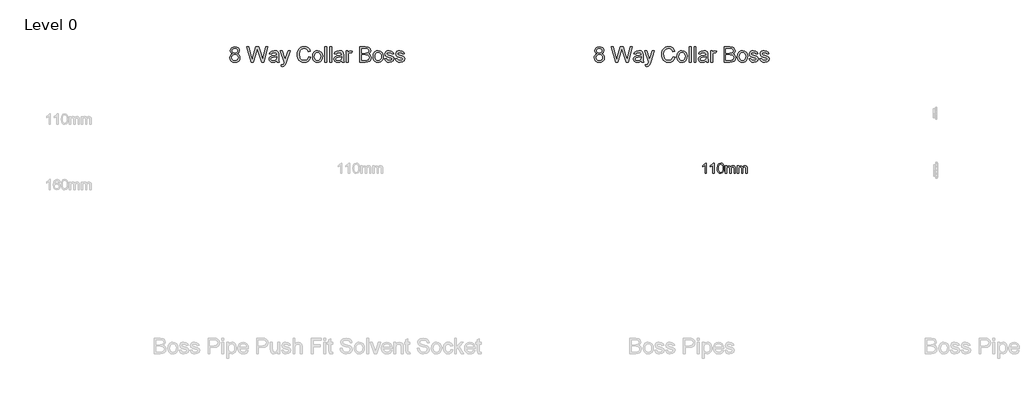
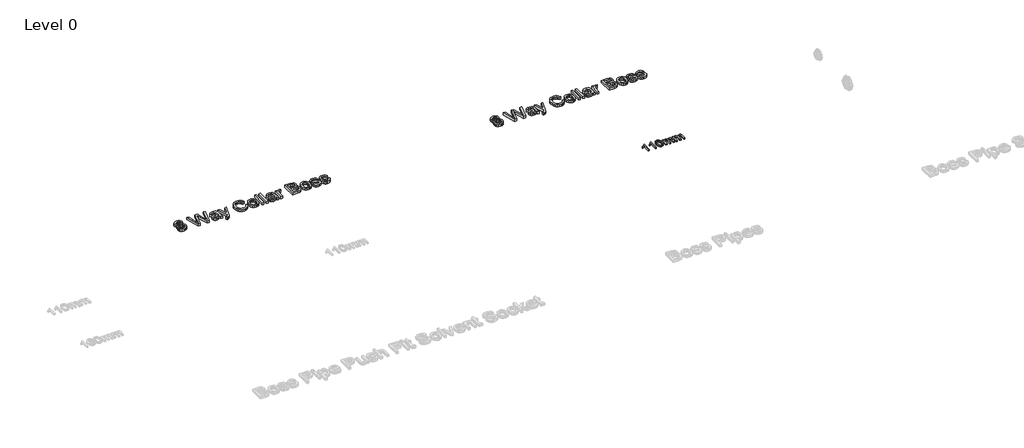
# One storey, part 14 of 28: 3 proxies.
"""IFC4 building model written with IfcOpenShell, lengths in millimetres."""

from ifc_helpers import new_model, si_unit, origin, origin_with_axes, place, context, project, spatial, polyline, outline, extrude, element, save

model = new_model("IFC4")

# Units and contexts
model_context = context("Model", 3, world=origin())
ifc_project = project(units=[si_unit("LENGTHUNIT", "METRE", prefix="MILLI")], contexts=[model_context])

# Site, building, storey
site = spatial("IfcSite", under=ifc_project)
building = spatial("IfcBuilding", under=site)
storey = spatial("IfcBuildingStorey", under=building, Name="Level 0", Elevation=0.0)

# Proxies
placement = place(None, origin())
element("IfcBuildingElementProxy", 1, Name="100mm Arial", ObjectType="100mm Arial", at=placement, inside=storey, context=model_context, shape_type="SweptSolid", body=[
    extrude(outline(polyline([(-17291.7293188, 8237.7167304), (-17304.0370111, 8237.7167304), (-17304.0370111, 8314.4474996), (-17315.6956649, 8306.1422111), (-17328.6523957, 8299.9282688), (-17328.6523957, 8311.5628842), (-17310.6115303, 8323.0773073), (-17299.6620111, 8336.1782688), (-17291.7293188, 8336.1782688), (-17291.7293188, 8237.7167304)])), origin_with_axes(), (0.0, 0.0, 1.0), 15.0),
    extrude(outline(polyline([(-17216.3447034, 8237.7167304), (-17228.6523957, 8237.7167304), (-17228.6523957, 8314.4474996), (-17240.3110495, 8306.1422111), (-17253.2677803, 8299.9282688), (-17253.2677803, 8311.5628842), (-17235.2269149, 8323.0773073), (-17224.2773957, 8336.1782688), (-17216.3447034, 8336.1782688), (-17216.3447034, 8237.7167304)])), origin_with_axes(), (0.0, 0.0, 1.0), 15.0),
    extrude(outline(polyline([(-17187.1139341, 8286.1542304), (-17183.4961457, 8314.4835573), (-17172.7509534, 8330.8176919), (-17154.8062418, 8336.1782688), (-17140.4312418, 8333.0051919), (-17130.5033572, 8323.8585573), (-17124.7341264, 8309.2912496), (-17122.4985495, 8286.1542304), (-17126.0802803, 8257.9450958), (-17136.7894149, 8241.5749035), (-17154.8062418, 8236.1782688), (-17167.5947034, 8238.5220188), (-17177.3062418, 8245.5532688), (-17184.6620111, 8262.2059131), (-17187.1139341, 8286.1542304)]), holes=[polyline([(-17174.8062418, 8286.1782688), (-17173.3639341, 8266.8182929), (-17169.0370111, 8255.613365), (-17162.5947034, 8250.2678121), (-17154.8062418, 8248.4859611), (-17147.0177803, 8250.2738217), (-17140.5754726, 8255.6374035), (-17136.2485495, 8266.848341), (-17134.8062418, 8286.1782688), (-17136.2004726, 8305.1025477), (-17140.3831649, 8316.394615), (-17146.8134534, 8322.0015861), (-17154.9504726, 8323.8705765), (-17162.6547995, 8322.2239419), (-17168.8447034, 8317.2840381), (-17173.3158572, 8305.2888458), (-17174.8062418, 8286.1782688)])]), origin_with_axes(), (0.0, 0.0, 1.0), 15.0),
    extrude(outline(polyline([(-17108.6523957, 8237.7167304), (-17108.6523957, 8310.0244227), (-17096.3447034, 8310.0244227), (-17096.3447034, 8298.1253842), (-17087.8831649, 8307.8729804), (-17075.8398957, 8311.5628842), (-17063.5081649, 8307.800865), (-17056.7293188, 8297.2599996), (-17047.1259534, 8307.9871631), (-17034.9985495, 8311.5628842), (-17025.7467466, 8310.0755044), (-17018.9047995, 8305.613365), (-17014.6770351, 8298.0562736), (-17013.2677803, 8287.2840381), (-17013.2677803, 8237.7167304), (-17025.5754726, 8237.7167304), (-17025.5754726, 8281.9955765), (-17026.7172995, 8292.2720188), (-17030.8519149, 8297.332115), (-17037.8831649, 8299.2551919), (-17049.9865303, 8294.3273073), (-17054.8062418, 8278.5340381), (-17054.8062418, 8237.7167304), (-17067.1139341, 8237.7167304), (-17067.1139341, 8283.3657688), (-17069.9624918, 8295.2888458), (-17079.3014341, 8299.2551919), (-17088.4120111, 8296.6109611), (-17094.4697034, 8288.8705765), (-17096.3447034, 8274.1830765), (-17096.3447034, 8237.7167304), (-17108.6523957, 8237.7167304)])), origin_with_axes(), (0.0, 0.0, 1.0), 15.0),
    extrude(outline(polyline([(-16994.8062418, 8237.7167304), (-16994.8062418, 8310.0244227), (-16982.4985495, 8310.0244227), (-16982.4985495, 8298.1253842), (-16974.0370111, 8307.8729804), (-16961.9937418, 8311.5628842), (-16949.6620111, 8307.800865), (-16942.8831649, 8297.2599996), (-16933.2797995, 8307.9871631), (-16921.1523957, 8311.5628842), (-16911.9005928, 8310.0755044), (-16905.0586457, 8305.613365), (-16900.8308813, 8298.0562736), (-16899.4216264, 8287.2840381), (-16899.4216264, 8237.7167304), (-16911.7293188, 8237.7167304), (-16911.7293188, 8281.9955765), (-16912.8711457, 8292.2720188), (-16917.0057611, 8297.332115), (-16924.0370111, 8299.2551919), (-16936.1403764, 8294.3273073), (-16940.960088, 8278.5340381), (-16940.960088, 8237.7167304), (-16953.2677803, 8237.7167304), (-16953.2677803, 8283.3657688), (-16956.116338, 8295.2888458), (-16965.4552803, 8299.2551919), (-16974.5658572, 8296.6109611), (-16980.6235495, 8288.8705765), (-16982.4985495, 8274.1830765), (-16982.4985495, 8237.7167304), (-16994.8062418, 8237.7167304)])), origin_with_axes(), (0.0, 0.0, 1.0), 15.0),
])
element("IfcBuildingElementProxy", 2, Name="150mm Arial", ObjectType="150mm Arial", at=placement, inside=storey, context=model_context, shape_type="SweptSolid", body=[
    extrude(outline(polyline([(-21841.0135666, 9386.5606758), (-21857.83448, 9398.0270219), (-21863.2972204, 9415.8755796), (-21860.3224608, 9430.307671), (-21851.398182, 9442.2337527), (-21837.5249848, 9450.2385604), (-21819.7034704, 9452.9068296), (-21801.7737829, 9450.1754594), (-21787.7202973, 9441.9813488), (-21778.6337589, 9429.8659642), (-21775.6049127, 9415.3707719), (-21780.9955377, 9397.9729354), (-21797.3477012, 9386.5606758), (-21785.9850209, 9380.705808), (-21777.7142877, 9372.0835123), (-21772.670718, 9361.1084522), (-21770.9895281, 9348.1952911), (-21774.3248647, 9330.5450508), (-21784.3308743, 9315.9597142), (-21799.7815954, 9306.1700508), (-21819.4510666, 9302.9068296), (-21839.1205377, 9306.1835724), (-21854.5712589, 9316.0138008), (-21864.5772685, 9330.7388609), (-21867.912605, 9348.7000988), (-21866.163807, 9362.1135604), (-21860.9174127, 9373.1472142), (-21852.443855, 9381.4224546), (-21841.0135666, 9386.5606758)]), holes=[polyline([(-21849.4510666, 9349.3491373), (-21846.3681339, 9335.4488969), (-21835.460682, 9325.0462527), (-21819.3068358, 9321.3683681), (-21806.74073, 9323.3019618), (-21797.3116435, 9329.1027431), (-21791.4162108, 9337.8872984), (-21789.4510666, 9348.7722142), (-21791.4793118, 9359.8419258), (-21797.5640473, 9368.8202911), (-21807.20948, 9374.7698104), (-21819.9198166, 9376.7529835), (-21832.3101411, 9374.7968536), (-21841.6445762, 9368.9284642), (-21847.499444, 9360.1213729), (-21849.4510666, 9349.3491373)]), polyline([(-21844.835682, 9415.3347142), (-21843.1995642, 9407.27582), (-21838.2912108, 9400.8395219), (-21830.2548526, 9396.6207719), (-21819.2347204, 9395.2145219), (-21808.4714993, 9396.6117575), (-21800.5568358, 9400.8034642), (-21795.6890473, 9407.0234161), (-21794.0664512, 9414.5053873), (-21795.7431339, 9422.2713128), (-21800.773182, 9428.6940892), (-21808.7960185, 9433.0074907), (-21819.4510666, 9434.4452911), (-21830.1737228, 9433.0390411), (-21838.1830377, 9428.8202911), (-21843.1725209, 9422.6363969), (-21844.835682, 9415.3347142)])]), origin_with_axes(), (0.0, 0.0, 1.0), 25.0),
    extrude(outline(polyline([(-21663.7900089, 9305.2145219), (-21704.0664512, 9452.9068296), (-21685.0279897, 9452.9068296), (-21661.662605, 9355.8395219), (-21654.4510666, 9325.8755796), (-21646.7347204, 9352.3779835), (-21617.4558743, 9452.9068296), (-21590.0159704, 9452.9068296), (-21568.741932, 9380.0342335), (-21552.912605, 9325.8755796), (-21545.9174127, 9354.9741373), (-21522.335682, 9452.9068296), (-21503.2972204, 9452.9068296), (-21543.6097204, 9305.2145219), (-21563.3332781, 9305.2145219), (-21598.741932, 9419.1568296), (-21603.6818358, 9435.0582719), (-21609.2347204, 9415.9116373), (-21641.506355, 9305.2145219), (-21663.7900089, 9305.2145219)])), origin_with_axes(), (0.0, 0.0, 1.0), 25.0),
    extrude(outline(polyline([(-21417.912605, 9319.0606758), (-21435.8152493, 9306.5486565), (-21455.5928935, 9302.9068296), (-21471.0210786, 9305.0973344), (-21482.4017877, 9311.6688488), (-21489.4195161, 9321.6478152), (-21491.7587589, 9334.0606758), (-21488.225105, 9348.6640411), (-21478.9402493, 9359.2650027), (-21466.0135666, 9365.322695), (-21450.0400089, 9368.0991373), (-21418.0207781, 9374.4452911), (-21417.912605, 9378.5558681), (-21419.1836387, 9386.7950508), (-21422.9967397, 9392.1856758), (-21431.5243839, 9396.1880796), (-21443.4053935, 9397.5222142), (-21462.0832781, 9393.9705315), (-21470.9895281, 9381.3683681), (-21489.4510666, 9383.6760604), (-21481.4642877, 9401.7049065), (-21465.382557, 9412.2698104), (-21441.0255858, 9415.9837527), (-21418.6517877, 9412.7025027), (-21406.0135666, 9404.46332), (-21400.3525089, 9391.9332719), (-21399.4510666, 9375.7794258), (-21399.4510666, 9352.8106758), (-21398.5135666, 9320.7373585), (-21394.835682, 9305.2145219), (-21413.2972204, 9305.2145219), (-21417.912605, 9319.0606758)]), holes=[polyline([(-21417.912605, 9355.9837527), (-21447.6962589, 9350.322695), (-21463.5796723, 9347.3299065), (-21470.773182, 9342.4621181), (-21473.2972204, 9335.3587527), (-21467.7984223, 9325.3707719), (-21451.662605, 9321.3683681), (-21432.9847204, 9325.7854354), (-21420.9414512, 9336.4765411), (-21418.0207781, 9350.7553873), (-21417.912605, 9355.9837527)])]), origin_with_axes(), (0.0, 0.0, 1.0), 25.0),
    extrude(outline(polyline([(-21374.0664512, 9263.6760604), (-21376.3741435, 9281.4525027), (-21366.9991435, 9279.8299065), (-21358.2371243, 9281.8671661), (-21352.8645281, 9287.5462527), (-21347.8164512, 9301.1400027), (-21346.3741435, 9305.6111565), (-21385.6049127, 9413.6760604), (-21366.1337589, 9413.6760604), (-21345.3284704, 9353.4597142), (-21338.0808743, 9329.3731758), (-21330.8332781, 9350.6472142), (-21309.4510666, 9413.6760604), (-21290.1241435, 9413.6760604), (-21327.8765473, 9302.6183681), (-21337.6842397, 9278.5318296), (-21348.3933743, 9265.5150027), (-21362.7803935, 9261.3683681), (-21374.0664512, 9263.6760604)])), origin_with_axes(), (0.0, 0.0, 1.0), 25.0),
    extrude(outline(polyline([(-21110.9895281, 9357.7145219), (-21092.5279897, 9352.9549065), (-21101.0466195, 9331.4419859), (-21114.4150089, 9315.7253392), (-21131.975105, 9306.111457), (-21153.068855, 9302.9068296), (-21174.4826171, 9305.3317094), (-21191.4883262, 9312.6063488), (-21204.523182, 9324.478344), (-21214.0243839, 9340.6952911), (-21219.8251651, 9359.760796), (-21221.7587589, 9380.1784642), (-21219.5727613, 9401.713921), (-21213.0147685, 9420.3106758), (-21202.4273286, 9435.3782839), (-21188.1529897, 9446.3263008), (-21171.2239031, 9452.9924666), (-21152.6722204, 9455.2145219), (-21132.4303334, 9452.338921), (-21115.695057, 9443.7121181), (-21102.9892276, 9429.8659642), (-21094.835682, 9411.3323104), (-21113.2972204, 9406.9332719), (-21119.6974608, 9420.3963128), (-21128.4414512, 9429.6315892), (-21139.6373647, 9434.9726349), (-21153.3933743, 9436.7529835), (-21169.2497445, 9434.7788248), (-21182.2755858, 9428.8563488), (-21192.1599007, 9419.6075508), (-21198.5916916, 9407.6544258), (-21203.2972204, 9380.2145219), (-21197.726307, 9348.4116373), (-21190.6049127, 9336.5351349), (-21180.382557, 9328.0931277), (-21168.1274488, 9323.049558), (-21154.9077973, 9321.3683681), (-21139.4976411, 9323.6580315), (-21126.6565954, 9330.5270219), (-21116.9615834, 9341.9032238), (-21110.9895281, 9357.7145219)])), origin_with_axes(), (0.0, 0.0, 1.0), 25.0),
    extrude(outline(polyline([(-21074.0664512, 9359.4452911), (-21070.0730618, 9385.5961325), (-21058.0928935, 9403.9765411), (-21043.2912108, 9412.9819498), (-21025.568855, 9415.9837527), (-21006.1743238, 9412.3284041), (-20990.6830377, 9401.3623585), (-20980.5282901, 9383.9510003), (-20977.1433743, 9360.9597142), (-20978.6397685, 9342.3088729), (-20983.1289512, 9328.1111565), (-20990.4802132, 9317.4786445), (-21000.5628454, 9309.5234161), (-21012.5385065, 9304.5609762), (-21025.568855, 9302.9068296), (-21045.1977613, 9306.5486565), (-21060.6710185, 9317.4741373), (-21070.717593, 9335.2505796), (-21074.0664512, 9359.4452911)]), holes=[polyline([(-21055.6049127, 9359.4813488), (-21053.4684945, 9342.7731157), (-21047.0592397, 9330.86957), (-21037.413807, 9323.7436686), (-21025.568855, 9321.3683681), (-21013.7779897, 9323.7571902), (-21004.1505858, 9330.9236565), (-20997.741331, 9342.9849546), (-20995.6049127, 9360.0582719), (-20997.7548526, 9376.2797262), (-21004.2046723, 9388.0210123), (-21013.8455978, 9395.1469137), (-21025.568855, 9397.5222142), (-21037.413807, 9395.1559282), (-21047.0592397, 9388.05707), (-21053.4684945, 9376.1805676), (-21055.6049127, 9359.4813488)])]), origin_with_axes(), (0.0, 0.0, 1.0), 25.0),
    extrude(outline(polyline([(-20956.3741435, 9305.2145219), (-20956.3741435, 9452.9068296), (-20937.912605, 9452.9068296), (-20937.912605, 9305.2145219), (-20956.3741435, 9305.2145219)])), origin_with_axes(), (0.0, 0.0, 1.0), 25.0),
    extrude(outline(polyline([(-20910.2202973, 9305.2145219), (-20910.2202973, 9452.9068296), (-20891.7587589, 9452.9068296), (-20891.7587589, 9305.2145219), (-20910.2202973, 9305.2145219)])), origin_with_axes(), (0.0, 0.0, 1.0), 25.0),
    extrude(outline(polyline([(-20794.835682, 9319.0606758), (-20812.7383262, 9306.5486565), (-20832.5159704, 9302.9068296), (-20847.9441555, 9305.0973344), (-20859.3248647, 9311.6688488), (-20866.342593, 9321.6478152), (-20868.6818358, 9334.0606758), (-20865.148182, 9348.6640411), (-20855.8633262, 9359.2650027), (-20842.9366435, 9365.322695), (-20826.9630858, 9368.0991373), (-20794.943855, 9374.4452911), (-20794.835682, 9378.5558681), (-20796.1067156, 9386.7950508), (-20799.9198166, 9392.1856758), (-20808.4474608, 9396.1880796), (-20820.3284704, 9397.5222142), (-20839.006355, 9393.9705315), (-20847.912605, 9381.3683681), (-20866.3741435, 9383.6760604), (-20858.3873647, 9401.7049065), (-20842.3056339, 9412.2698104), (-20817.9486627, 9415.9837527), (-20795.5748647, 9412.7025027), (-20782.9366435, 9404.46332), (-20777.2755858, 9391.9332719), (-20776.3741435, 9375.7794258), (-20776.3741435, 9352.8106758), (-20775.4366435, 9320.7373585), (-20771.7587589, 9305.2145219), (-20790.2202973, 9305.2145219), (-20794.835682, 9319.0606758)]), holes=[polyline([(-20794.835682, 9355.9837527), (-20824.6193358, 9350.322695), (-20840.5027493, 9347.3299065), (-20847.6962589, 9342.4621181), (-20850.2202973, 9335.3587527), (-20844.7214993, 9325.3707719), (-20828.585682, 9321.3683681), (-20809.9077973, 9325.7854354), (-20797.8645281, 9336.4765411), (-20794.943855, 9350.7553873), (-20794.835682, 9355.9837527)])]), origin_with_axes(), (0.0, 0.0, 1.0), 25.0),
    extrude(outline(polyline([(-20750.9895281, 9305.2145219), (-20750.9895281, 9413.6760604), (-20734.835682, 9413.6760604), (-20734.835682, 9397.6303873), (-20723.3693358, 9412.4140411), (-20711.8308743, 9415.9837527), (-20693.2972204, 9410.2866373), (-20699.4630858, 9393.7361565), (-20712.443855, 9397.5222142), (-20722.882557, 9393.8803873), (-20729.5352012, 9383.7842335), (-20732.5279897, 9362.2217335), (-20732.5279897, 9305.2145219), (-20750.9895281, 9305.2145219)])), origin_with_axes(), (0.0, 0.0, 1.0), 25.0),
    extrude(outline(polyline([(-20621.7587589, 9305.2145219), (-20621.7587589, 9452.9068296), (-20565.4005858, 9452.9068296), (-20537.7984223, 9448.5618777), (-20528.522581, 9443.049558), (-20521.5003454, 9435.2025027), (-20515.6049127, 9416.3082719), (-20520.5628454, 9399.0546661), (-20535.5448166, 9385.9837527), (-20525.0835786, 9380.5210123), (-20517.3537108, 9372.2097142), (-20512.5805738, 9361.5997383), (-20510.9895281, 9349.2409642), (-20515.33448, 9329.3912046), (-20526.0977012, 9315.2565892), (-20542.1614031, 9307.7565892), (-20565.8332781, 9305.2145219), (-20621.7587589, 9305.2145219)]), holes=[polyline([(-20603.2972204, 9323.6760604), (-20565.4366435, 9323.6760604), (-20551.7347204, 9324.3972142), (-20540.1421723, 9328.4176469), (-20532.4618839, 9336.6207719), (-20529.4510666, 9349.0606758), (-20532.9847204, 9363.4116373), (-20544.4330377, 9371.9753392), (-20567.2395281, 9374.4452911), (-20603.2972204, 9374.4452911), (-20603.2972204, 9323.6760604)]), polyline([(-20603.2972204, 9392.9068296), (-20569.5832781, 9392.9068296), (-20549.8957781, 9394.4933681), (-20538.0508262, 9401.3263008), (-20534.0664512, 9413.3515411), (-20537.7803935, 9425.3948104), (-20548.4174127, 9432.5162046), (-20572.1433743, 9434.4452911), (-20603.2972204, 9434.4452911), (-20603.2972204, 9392.9068296)])]), origin_with_axes(), (0.0, 0.0, 1.0), 25.0),
    extrude(outline(polyline([(-20492.5279897, 9359.4452911), (-20488.5346002, 9385.5961325), (-20476.554432, 9403.9765411), (-20461.7527493, 9412.9819498), (-20444.0303935, 9415.9837527), (-20424.6358622, 9412.3284041), (-20409.1445762, 9401.3623585), (-20398.9898286, 9383.9510003), (-20395.6049127, 9360.9597142), (-20397.101307, 9342.3088729), (-20401.5904897, 9328.1111565), (-20408.9417517, 9317.4786445), (-20419.0243839, 9309.5234161), (-20431.0000449, 9304.5609762), (-20444.0303935, 9302.9068296), (-20463.6592997, 9306.5486565), (-20479.132557, 9317.4741373), (-20489.1791315, 9335.2505796), (-20492.5279897, 9359.4452911)]), holes=[polyline([(-20474.0664512, 9359.4813488), (-20471.9300329, 9342.7731157), (-20465.5207781, 9330.86957), (-20455.8753454, 9323.7436686), (-20444.0303935, 9321.3683681), (-20432.2395281, 9323.7571902), (-20422.6121243, 9330.9236565), (-20416.2028695, 9342.9849546), (-20414.0664512, 9360.0582719), (-20416.2163911, 9376.2797262), (-20422.6662108, 9388.0210123), (-20432.3071363, 9395.1469137), (-20444.0303935, 9397.5222142), (-20455.8753454, 9395.1559282), (-20465.5207781, 9388.05707), (-20471.9300329, 9376.1805676), (-20474.0664512, 9359.4813488)])]), origin_with_axes(), (0.0, 0.0, 1.0), 25.0),
    extrude(outline(polyline([(-20381.7587589, 9337.5222142), (-20363.2972204, 9339.8299065), (-20360.3855618, 9331.9332719), (-20354.7515473, 9326.1279835), (-20335.1722204, 9321.3683681), (-20316.350105, 9325.7313488), (-20310.2202973, 9335.9717335), (-20316.3861627, 9344.2650027), (-20335.3885666, 9349.5294258), (-20363.1890473, 9358.5618777), (-20375.3224608, 9369.1087527), (-20379.4510666, 9384.0005796), (-20376.1337589, 9397.7565892), (-20367.0832781, 9408.2674065), (-20355.3464993, 9413.7301469), (-20339.4630858, 9415.9837527), (-20316.9991435, 9412.3599546), (-20302.7202973, 9402.5522623), (-20296.3741435, 9385.9837527), (-20314.835682, 9383.6760604), (-20321.7767877, 9393.8623585), (-20338.0207781, 9397.5222142), (-20355.6890473, 9394.0246181), (-20360.9895281, 9385.8755796), (-20358.7900089, 9380.5029835), (-20351.9029897, 9376.4284642), (-20336.0015473, 9372.4981758), (-20308.9041916, 9363.8082719), (-20296.320057, 9353.9645219), (-20291.7587589, 9337.9188488), (-20297.1133262, 9320.2505796), (-20312.5640473, 9307.43207), (-20335.4246243, 9302.9068296), (-20354.0394079, 9305.08832), (-20367.6241435, 9311.6327911), (-20376.6926531, 9322.4681277), (-20381.7587589, 9337.5222142)])), origin_with_axes(), (0.0, 0.0, 1.0), 25.0),
    extrude(outline(polyline([(-20277.912605, 9337.5222142), (-20259.4510666, 9339.8299065), (-20256.5394079, 9331.9332719), (-20250.9053935, 9326.1279835), (-20231.3260666, 9321.3683681), (-20212.5039512, 9325.7313488), (-20206.3741435, 9335.9717335), (-20212.5400089, 9344.2650027), (-20231.5424127, 9349.5294258), (-20259.3428935, 9358.5618777), (-20271.476307, 9369.1087527), (-20275.6049127, 9384.0005796), (-20272.287605, 9397.7565892), (-20263.2371243, 9408.2674065), (-20251.5003454, 9413.7301469), (-20235.616932, 9415.9837527), (-20213.1529897, 9412.3599546), (-20198.8741435, 9402.5522623), (-20192.5279897, 9385.9837527), (-20210.9895281, 9383.6760604), (-20217.9306339, 9393.8623585), (-20234.1746243, 9397.5222142), (-20251.8428935, 9394.0246181), (-20257.1433743, 9385.8755796), (-20254.943855, 9380.5029835), (-20248.0568358, 9376.4284642), (-20232.1553935, 9372.4981758), (-20205.0580377, 9363.8082719), (-20192.4739031, 9353.9645219), (-20187.912605, 9337.9188488), (-20193.2671723, 9320.2505796), (-20208.7178935, 9307.43207), (-20231.5784704, 9302.9068296), (-20250.1932541, 9305.08832), (-20263.7779897, 9311.6327911), (-20272.8464993, 9322.4681277), (-20277.912605, 9337.5222142)])), origin_with_axes(), (0.0, 0.0, 1.0), 25.0),
])
element("IfcBuildingElementProxy", 3, Name="150mm Arial", ObjectType="150mm Arial", at=placement, inside=storey, context=model_context, shape_type="SweptSolid", body=[
    extrude(outline(polyline([(-18341.0135666, 9386.5606758), (-18357.83448, 9398.0270219), (-18363.2972204, 9415.8755796), (-18360.3224608, 9430.307671), (-18351.398182, 9442.2337527), (-18337.5249848, 9450.2385604), (-18319.7034704, 9452.9068296), (-18301.7737829, 9450.1754594), (-18287.7202973, 9441.9813488), (-18278.6337589, 9429.8659642), (-18275.6049127, 9415.3707719), (-18280.9955377, 9397.9729354), (-18297.3477012, 9386.5606758), (-18285.9850209, 9380.705808), (-18277.7142877, 9372.0835123), (-18272.670718, 9361.1084522), (-18270.9895281, 9348.1952911), (-18274.3248647, 9330.5450508), (-18284.3308743, 9315.9597142), (-18299.7815954, 9306.1700508), (-18319.4510666, 9302.9068296), (-18339.1205377, 9306.1835724), (-18354.5712589, 9316.0138008), (-18364.5772685, 9330.7388609), (-18367.912605, 9348.7000988), (-18366.163807, 9362.1135604), (-18360.9174127, 9373.1472142), (-18352.443855, 9381.4224546), (-18341.0135666, 9386.5606758)]), holes=[polyline([(-18349.4510666, 9349.3491373), (-18346.3681339, 9335.4488969), (-18335.460682, 9325.0462527), (-18319.3068358, 9321.3683681), (-18306.74073, 9323.3019618), (-18297.3116435, 9329.1027431), (-18291.4162108, 9337.8872984), (-18289.4510666, 9348.7722142), (-18291.4793118, 9359.8419258), (-18297.5640473, 9368.8202911), (-18307.20948, 9374.7698104), (-18319.9198166, 9376.7529835), (-18332.3101411, 9374.7968536), (-18341.6445762, 9368.9284642), (-18347.499444, 9360.1213729), (-18349.4510666, 9349.3491373)]), polyline([(-18344.835682, 9415.3347142), (-18343.1995642, 9407.27582), (-18338.2912108, 9400.8395219), (-18330.2548526, 9396.6207719), (-18319.2347204, 9395.2145219), (-18308.4714993, 9396.6117575), (-18300.5568358, 9400.8034642), (-18295.6890473, 9407.0234161), (-18294.0664512, 9414.5053873), (-18295.7431339, 9422.2713128), (-18300.773182, 9428.6940892), (-18308.7960185, 9433.0074907), (-18319.4510666, 9434.4452911), (-18330.1737228, 9433.0390411), (-18338.1830377, 9428.8202911), (-18343.1725209, 9422.6363969), (-18344.835682, 9415.3347142)])]), origin_with_axes(), (0.0, 0.0, 1.0), 25.0),
    extrude(outline(polyline([(-18163.7900089, 9305.2145219), (-18204.0664512, 9452.9068296), (-18185.0279897, 9452.9068296), (-18161.662605, 9355.8395219), (-18154.4510666, 9325.8755796), (-18146.7347204, 9352.3779835), (-18117.4558743, 9452.9068296), (-18090.0159704, 9452.9068296), (-18068.741932, 9380.0342335), (-18052.912605, 9325.8755796), (-18045.9174127, 9354.9741373), (-18022.335682, 9452.9068296), (-18003.2972204, 9452.9068296), (-18043.6097204, 9305.2145219), (-18063.3332781, 9305.2145219), (-18098.741932, 9419.1568296), (-18103.6818358, 9435.0582719), (-18109.2347204, 9415.9116373), (-18141.506355, 9305.2145219), (-18163.7900089, 9305.2145219)])), origin_with_axes(), (0.0, 0.0, 1.0), 25.0),
    extrude(outline(polyline([(-17917.912605, 9319.0606758), (-17935.8152493, 9306.5486565), (-17955.5928935, 9302.9068296), (-17971.0210786, 9305.0973344), (-17982.4017877, 9311.6688488), (-17989.4195161, 9321.6478152), (-17991.7587589, 9334.0606758), (-17988.225105, 9348.6640411), (-17978.9402493, 9359.2650027), (-17966.0135666, 9365.322695), (-17950.0400089, 9368.0991373), (-17918.0207781, 9374.4452911), (-17917.912605, 9378.5558681), (-17919.1836387, 9386.7950508), (-17922.9967397, 9392.1856758), (-17931.5243839, 9396.1880796), (-17943.4053935, 9397.5222142), (-17962.0832781, 9393.9705315), (-17970.9895281, 9381.3683681), (-17989.4510666, 9383.6760604), (-17981.4642877, 9401.7049065), (-17965.382557, 9412.2698104), (-17941.0255858, 9415.9837527), (-17918.6517877, 9412.7025027), (-17906.0135666, 9404.46332), (-17900.3525089, 9391.9332719), (-17899.4510666, 9375.7794258), (-17899.4510666, 9352.8106758), (-17898.5135666, 9320.7373585), (-17894.835682, 9305.2145219), (-17913.2972204, 9305.2145219), (-17917.912605, 9319.0606758)]), holes=[polyline([(-17917.912605, 9355.9837527), (-17947.6962589, 9350.322695), (-17963.5796723, 9347.3299065), (-17970.773182, 9342.4621181), (-17973.2972204, 9335.3587527), (-17967.7984223, 9325.3707719), (-17951.662605, 9321.3683681), (-17932.9847204, 9325.7854354), (-17920.9414512, 9336.4765411), (-17918.0207781, 9350.7553873), (-17917.912605, 9355.9837527)])]), origin_with_axes(), (0.0, 0.0, 1.0), 25.0),
    extrude(outline(polyline([(-17874.0664512, 9263.6760604), (-17876.3741435, 9281.4525027), (-17866.9991435, 9279.8299065), (-17858.2371243, 9281.8671661), (-17852.8645281, 9287.5462527), (-17847.8164512, 9301.1400027), (-17846.3741435, 9305.6111565), (-17885.6049127, 9413.6760604), (-17866.1337589, 9413.6760604), (-17845.3284704, 9353.4597142), (-17838.0808743, 9329.3731758), (-17830.8332781, 9350.6472142), (-17809.4510666, 9413.6760604), (-17790.1241435, 9413.6760604), (-17827.8765473, 9302.6183681), (-17837.6842397, 9278.5318296), (-17848.3933743, 9265.5150027), (-17862.7803935, 9261.3683681), (-17874.0664512, 9263.6760604)])), origin_with_axes(), (0.0, 0.0, 1.0), 25.0),
    extrude(outline(polyline([(-17610.9895281, 9357.7145219), (-17592.5279897, 9352.9549065), (-17601.0466195, 9331.4419859), (-17614.4150089, 9315.7253392), (-17631.975105, 9306.111457), (-17653.068855, 9302.9068296), (-17674.4826171, 9305.3317094), (-17691.4883262, 9312.6063488), (-17704.523182, 9324.478344), (-17714.0243839, 9340.6952911), (-17719.8251651, 9359.760796), (-17721.7587589, 9380.1784642), (-17719.5727613, 9401.713921), (-17713.0147685, 9420.3106758), (-17702.4273286, 9435.3782839), (-17688.1529897, 9446.3263008), (-17671.2239031, 9452.9924666), (-17652.6722204, 9455.2145219), (-17632.4303334, 9452.338921), (-17615.695057, 9443.7121181), (-17602.9892276, 9429.8659642), (-17594.835682, 9411.3323104), (-17613.2972204, 9406.9332719), (-17619.6974608, 9420.3963128), (-17628.4414512, 9429.6315892), (-17639.6373647, 9434.9726349), (-17653.3933743, 9436.7529835), (-17669.2497445, 9434.7788248), (-17682.2755858, 9428.8563488), (-17692.1599007, 9419.6075508), (-17698.5916916, 9407.6544258), (-17703.2972204, 9380.2145219), (-17697.726307, 9348.4116373), (-17690.6049127, 9336.5351349), (-17680.382557, 9328.0931277), (-17668.1274488, 9323.049558), (-17654.9077973, 9321.3683681), (-17639.4976411, 9323.6580315), (-17626.6565954, 9330.5270219), (-17616.9615834, 9341.9032238), (-17610.9895281, 9357.7145219)])), origin_with_axes(), (0.0, 0.0, 1.0), 25.0),
    extrude(outline(polyline([(-17574.0664512, 9359.4452911), (-17570.0730618, 9385.5961325), (-17558.0928935, 9403.9765411), (-17543.2912108, 9412.9819498), (-17525.568855, 9415.9837527), (-17506.1743238, 9412.3284041), (-17490.6830377, 9401.3623585), (-17480.5282901, 9383.9510003), (-17477.1433743, 9360.9597142), (-17478.6397685, 9342.3088729), (-17483.1289512, 9328.1111565), (-17490.4802132, 9317.4786445), (-17500.5628454, 9309.5234161), (-17512.5385065, 9304.5609762), (-17525.568855, 9302.9068296), (-17545.1977613, 9306.5486565), (-17560.6710185, 9317.4741373), (-17570.717593, 9335.2505796), (-17574.0664512, 9359.4452911)]), holes=[polyline([(-17555.6049127, 9359.4813488), (-17553.4684945, 9342.7731157), (-17547.0592397, 9330.86957), (-17537.413807, 9323.7436686), (-17525.568855, 9321.3683681), (-17513.7779897, 9323.7571902), (-17504.1505858, 9330.9236565), (-17497.741331, 9342.9849546), (-17495.6049127, 9360.0582719), (-17497.7548526, 9376.2797262), (-17504.2046723, 9388.0210123), (-17513.8455978, 9395.1469137), (-17525.568855, 9397.5222142), (-17537.413807, 9395.1559282), (-17547.0592397, 9388.05707), (-17553.4684945, 9376.1805676), (-17555.6049127, 9359.4813488)])]), origin_with_axes(), (0.0, 0.0, 1.0), 25.0),
    extrude(outline(polyline([(-17456.3741435, 9305.2145219), (-17456.3741435, 9452.9068296), (-17437.912605, 9452.9068296), (-17437.912605, 9305.2145219), (-17456.3741435, 9305.2145219)])), origin_with_axes(), (0.0, 0.0, 1.0), 25.0),
    extrude(outline(polyline([(-17410.2202973, 9305.2145219), (-17410.2202973, 9452.9068296), (-17391.7587589, 9452.9068296), (-17391.7587589, 9305.2145219), (-17410.2202973, 9305.2145219)])), origin_with_axes(), (0.0, 0.0, 1.0), 25.0),
    extrude(outline(polyline([(-17294.835682, 9319.0606758), (-17312.7383262, 9306.5486565), (-17332.5159704, 9302.9068296), (-17347.9441555, 9305.0973344), (-17359.3248647, 9311.6688488), (-17366.342593, 9321.6478152), (-17368.6818358, 9334.0606758), (-17365.148182, 9348.6640411), (-17355.8633262, 9359.2650027), (-17342.9366435, 9365.322695), (-17326.9630858, 9368.0991373), (-17294.943855, 9374.4452911), (-17294.835682, 9378.5558681), (-17296.1067156, 9386.7950508), (-17299.9198166, 9392.1856758), (-17308.4474608, 9396.1880796), (-17320.3284704, 9397.5222142), (-17339.006355, 9393.9705315), (-17347.912605, 9381.3683681), (-17366.3741435, 9383.6760604), (-17358.3873647, 9401.7049065), (-17342.3056339, 9412.2698104), (-17317.9486627, 9415.9837527), (-17295.5748647, 9412.7025027), (-17282.9366435, 9404.46332), (-17277.2755858, 9391.9332719), (-17276.3741435, 9375.7794258), (-17276.3741435, 9352.8106758), (-17275.4366435, 9320.7373585), (-17271.7587589, 9305.2145219), (-17290.2202973, 9305.2145219), (-17294.835682, 9319.0606758)]), holes=[polyline([(-17294.835682, 9355.9837527), (-17324.6193358, 9350.322695), (-17340.5027493, 9347.3299065), (-17347.6962589, 9342.4621181), (-17350.2202973, 9335.3587527), (-17344.7214993, 9325.3707719), (-17328.585682, 9321.3683681), (-17309.9077973, 9325.7854354), (-17297.8645281, 9336.4765411), (-17294.943855, 9350.7553873), (-17294.835682, 9355.9837527)])]), origin_with_axes(), (0.0, 0.0, 1.0), 25.0),
    extrude(outline(polyline([(-17250.9895281, 9305.2145219), (-17250.9895281, 9413.6760604), (-17234.835682, 9413.6760604), (-17234.835682, 9397.6303873), (-17223.3693358, 9412.4140411), (-17211.8308743, 9415.9837527), (-17193.2972204, 9410.2866373), (-17199.4630858, 9393.7361565), (-17212.443855, 9397.5222142), (-17222.882557, 9393.8803873), (-17229.5352012, 9383.7842335), (-17232.5279897, 9362.2217335), (-17232.5279897, 9305.2145219), (-17250.9895281, 9305.2145219)])), origin_with_axes(), (0.0, 0.0, 1.0), 25.0),
    extrude(outline(polyline([(-17121.7587589, 9305.2145219), (-17121.7587589, 9452.9068296), (-17065.4005858, 9452.9068296), (-17037.7984223, 9448.5618777), (-17028.522581, 9443.049558), (-17021.5003454, 9435.2025027), (-17015.6049127, 9416.3082719), (-17020.5628454, 9399.0546661), (-17035.5448166, 9385.9837527), (-17025.0835786, 9380.5210123), (-17017.3537108, 9372.2097142), (-17012.5805738, 9361.5997383), (-17010.9895281, 9349.2409642), (-17015.33448, 9329.3912046), (-17026.0977012, 9315.2565892), (-17042.1614031, 9307.7565892), (-17065.8332781, 9305.2145219), (-17121.7587589, 9305.2145219)]), holes=[polyline([(-17103.2972204, 9323.6760604), (-17065.4366435, 9323.6760604), (-17051.7347204, 9324.3972142), (-17040.1421723, 9328.4176469), (-17032.4618839, 9336.6207719), (-17029.4510666, 9349.0606758), (-17032.9847204, 9363.4116373), (-17044.4330377, 9371.9753392), (-17067.2395281, 9374.4452911), (-17103.2972204, 9374.4452911), (-17103.2972204, 9323.6760604)]), polyline([(-17103.2972204, 9392.9068296), (-17069.5832781, 9392.9068296), (-17049.8957781, 9394.4933681), (-17038.0508262, 9401.3263008), (-17034.0664512, 9413.3515411), (-17037.7803935, 9425.3948104), (-17048.4174127, 9432.5162046), (-17072.1433743, 9434.4452911), (-17103.2972204, 9434.4452911), (-17103.2972204, 9392.9068296)])]), origin_with_axes(), (0.0, 0.0, 1.0), 25.0),
    extrude(outline(polyline([(-16992.5279897, 9359.4452911), (-16988.5346002, 9385.5961325), (-16976.554432, 9403.9765411), (-16961.7527493, 9412.9819498), (-16944.0303935, 9415.9837527), (-16924.6358622, 9412.3284041), (-16909.1445762, 9401.3623585), (-16898.9898286, 9383.9510003), (-16895.6049127, 9360.9597142), (-16897.101307, 9342.3088729), (-16901.5904897, 9328.1111565), (-16908.9417517, 9317.4786445), (-16919.0243839, 9309.5234161), (-16931.0000449, 9304.5609762), (-16944.0303935, 9302.9068296), (-16963.6592997, 9306.5486565), (-16979.132557, 9317.4741373), (-16989.1791315, 9335.2505796), (-16992.5279897, 9359.4452911)]), holes=[polyline([(-16974.0664512, 9359.4813488), (-16971.9300329, 9342.7731157), (-16965.5207781, 9330.86957), (-16955.8753454, 9323.7436686), (-16944.0303935, 9321.3683681), (-16932.2395281, 9323.7571902), (-16922.6121243, 9330.9236565), (-16916.2028695, 9342.9849546), (-16914.0664512, 9360.0582719), (-16916.2163911, 9376.2797262), (-16922.6662108, 9388.0210123), (-16932.3071363, 9395.1469137), (-16944.0303935, 9397.5222142), (-16955.8753454, 9395.1559282), (-16965.5207781, 9388.05707), (-16971.9300329, 9376.1805676), (-16974.0664512, 9359.4813488)])]), origin_with_axes(), (0.0, 0.0, 1.0), 25.0),
    extrude(outline(polyline([(-16881.7587589, 9337.5222142), (-16863.2972204, 9339.8299065), (-16860.3855618, 9331.9332719), (-16854.7515473, 9326.1279835), (-16835.1722204, 9321.3683681), (-16816.350105, 9325.7313488), (-16810.2202973, 9335.9717335), (-16816.3861627, 9344.2650027), (-16835.3885666, 9349.5294258), (-16863.1890473, 9358.5618777), (-16875.3224608, 9369.1087527), (-16879.4510666, 9384.0005796), (-16876.1337589, 9397.7565892), (-16867.0832781, 9408.2674065), (-16855.3464993, 9413.7301469), (-16839.4630858, 9415.9837527), (-16816.9991435, 9412.3599546), (-16802.7202973, 9402.5522623), (-16796.3741435, 9385.9837527), (-16814.835682, 9383.6760604), (-16821.7767877, 9393.8623585), (-16838.0207781, 9397.5222142), (-16855.6890473, 9394.0246181), (-16860.9895281, 9385.8755796), (-16858.7900089, 9380.5029835), (-16851.9029897, 9376.4284642), (-16836.0015473, 9372.4981758), (-16808.9041916, 9363.8082719), (-16796.320057, 9353.9645219), (-16791.7587589, 9337.9188488), (-16797.1133262, 9320.2505796), (-16812.5640473, 9307.43207), (-16835.4246243, 9302.9068296), (-16854.0394079, 9305.08832), (-16867.6241435, 9311.6327911), (-16876.6926531, 9322.4681277), (-16881.7587589, 9337.5222142)])), origin_with_axes(), (0.0, 0.0, 1.0), 25.0),
    extrude(outline(polyline([(-16777.912605, 9337.5222142), (-16759.4510666, 9339.8299065), (-16756.5394079, 9331.9332719), (-16750.9053935, 9326.1279835), (-16731.3260666, 9321.3683681), (-16712.5039512, 9325.7313488), (-16706.3741435, 9335.9717335), (-16712.5400089, 9344.2650027), (-16731.5424127, 9349.5294258), (-16759.3428935, 9358.5618777), (-16771.476307, 9369.1087527), (-16775.6049127, 9384.0005796), (-16772.287605, 9397.7565892), (-16763.2371243, 9408.2674065), (-16751.5003454, 9413.7301469), (-16735.616932, 9415.9837527), (-16713.1529897, 9412.3599546), (-16698.8741435, 9402.5522623), (-16692.5279897, 9385.9837527), (-16710.9895281, 9383.6760604), (-16717.9306339, 9393.8623585), (-16734.1746243, 9397.5222142), (-16751.8428935, 9394.0246181), (-16757.1433743, 9385.8755796), (-16754.943855, 9380.5029835), (-16748.0568358, 9376.4284642), (-16732.1553935, 9372.4981758), (-16705.0580377, 9363.8082719), (-16692.4739031, 9353.9645219), (-16687.912605, 9337.9188488), (-16693.2671723, 9320.2505796), (-16708.7178935, 9307.43207), (-16731.5784704, 9302.9068296), (-16750.1932541, 9305.08832), (-16763.7779897, 9311.6327911), (-16772.8464993, 9322.4681277), (-16777.912605, 9337.5222142)])), origin_with_axes(), (0.0, 0.0, 1.0), 25.0),
])

save(model, "model.ifc")
